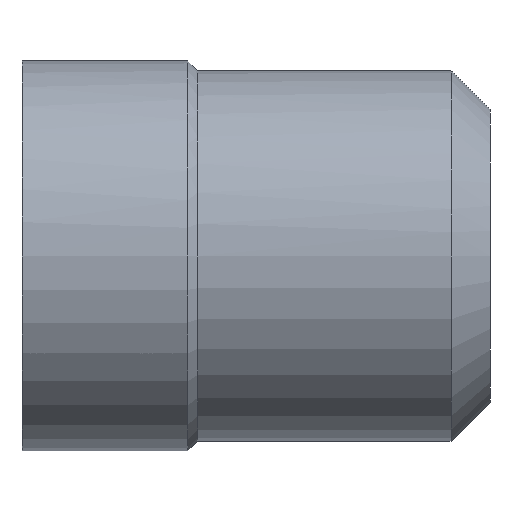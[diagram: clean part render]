
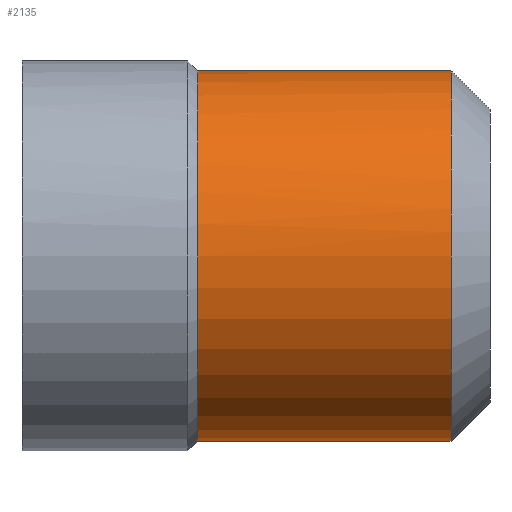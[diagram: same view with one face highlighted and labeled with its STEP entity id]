
A CAD part, front view. The second image highlights one B-rep face of the part: STEP entity #2135.
In plain terms, the highlighted cylindrical face has radius 4.75 mm (diameter 9.5 mm), a partial arc.
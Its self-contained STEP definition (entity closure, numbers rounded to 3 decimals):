
#1866=CARTESIAN_POINT('Vertex',(4.5,0.,4.75)) ;
#1880=CARTESIAN_POINT('Vertex',(4.5,0.,-4.75)) ;
#1902=CARTESIAN_POINT('Axis2P3D Location',(4.5,0.,0.)) ;
#1906=CARTESIAN_POINT('Vertex',(4.5,-4.75,0.)) ;
#1909=CARTESIAN_POINT('Axis2P3D Location',(4.5,0.,0.)) ;
#2069=CARTESIAN_POINT('Line Origine',(4.564,0.,-4.75)) ;
#2073=CARTESIAN_POINT('Vertex',(11.,0.,-4.75)) ;
#2076=CARTESIAN_POINT('Line Origine',(4.564,0.,4.75)) ;
#2080=CARTESIAN_POINT('Vertex',(11.,0.,4.75)) ;
#2107=CARTESIAN_POINT('Axis2P3D Location',(4.564,0.,0.)) ;
#2112=CARTESIAN_POINT('Axis2P3D Location',(11.,0.,0.)) ;
#2116=CARTESIAN_POINT('Vertex',(11.,-4.75,0.)) ;
#2120=CARTESIAN_POINT('Control Point',(11.,0.,4.75)) ;
#2121=CARTESIAN_POINT('Control Point',(11.,-1.492,4.75)) ;
#2122=CARTESIAN_POINT('Control Point',(11.,-2.986,4.166)) ;
#2123=CARTESIAN_POINT('Control Point',(11.,-4.166,2.986)) ;
#2124=CARTESIAN_POINT('Control Point',(11.,-4.75,1.492)) ;
#2125=CARTESIAN_POINT('Control Point',(11.,-4.75,0.)) ;
#1903=DIRECTION('Axis2P3D Direction',(-1.,0.,0.)) ;
#1910=DIRECTION('Axis2P3D Direction',(-1.,0.,0.)) ;
#2070=DIRECTION('Vector Direction',(-1.,0.,0.)) ;
#2077=DIRECTION('Vector Direction',(-1.,0.,0.)) ;
#2108=DIRECTION('Axis2P3D Direction',(-1.,-0.,-0.)) ;
#2109=DIRECTION('Axis2P3D XDirection',(0.,0.,-1.)) ;
#2113=DIRECTION('Axis2P3D Direction',(-1.,-0.,-0.)) ;
#1904=AXIS2_PLACEMENT_3D('Circle Axis2P3D',#1902,#1903,$) ;
#1911=AXIS2_PLACEMENT_3D('Circle Axis2P3D',#1909,#1910,$) ;
#2110=AXIS2_PLACEMENT_3D('Cylinder Axis2P3D',#2107,#2108,#2109) ;
#2114=AXIS2_PLACEMENT_3D('Circle Axis2P3D',#2112,#2113,$) ;
#2128=ORIENTED_EDGE('',*,*,#2082,.T.) ;
#2129=ORIENTED_EDGE('',*,*,#1913,.T.) ;
#2130=ORIENTED_EDGE('',*,*,#1908,.T.) ;
#2131=ORIENTED_EDGE('',*,*,#2075,.T.) ;
#2132=ORIENTED_EDGE('',*,*,#2118,.F.) ;
#2133=ORIENTED_EDGE('',*,*,#2126,.F.) ;
#2071=VECTOR('Line Direction',#2070,1.) ;
#2078=VECTOR('Line Direction',#2077,1.) ;
#2135=ADVANCED_FACE('MPA10',(#2134),#2111,.T.) ;
#2119=B_SPLINE_CURVE_WITH_KNOTS('',5,(#2120,#2121,#2122,#2123,#2124,#2125),.UNSPECIFIED.,.F.,.U.,(6,6),(-3.731,3.731),.UNSPECIFIED.) ;
#1905=CIRCLE('generated circle',#1904,4.75) ;
#1912=CIRCLE('generated circle',#1911,4.75) ;
#2115=CIRCLE('generated circle',#2114,4.75) ;
#2111=CYLINDRICAL_SURFACE('generated cylinder',#2110,4.75) ;
#1908=EDGE_CURVE('',#1907,#1881,#1905,.F.) ;
#1913=EDGE_CURVE('',#1867,#1907,#1912,.F.) ;
#2075=EDGE_CURVE('',#1881,#2074,#2072,.F.) ;
#2082=EDGE_CURVE('',#2081,#1867,#2079,.T.) ;
#2118=EDGE_CURVE('',#2117,#2074,#2115,.F.) ;
#2126=EDGE_CURVE('',#2081,#2117,#2119,.T.) ;
#2127=EDGE_LOOP('',(#2128,#2129,#2130,#2131,#2132,#2133)) ;
#2134=FACE_OUTER_BOUND('',#2127,.T.) ;
#2072=LINE('Line',#2069,#2071) ;
#2079=LINE('Line',#2076,#2078) ;
#1867=VERTEX_POINT('',#1866) ;
#1881=VERTEX_POINT('',#1880) ;
#1907=VERTEX_POINT('',#1906) ;
#2074=VERTEX_POINT('',#2073) ;
#2081=VERTEX_POINT('',#2080) ;
#2117=VERTEX_POINT('',#2116) ;
